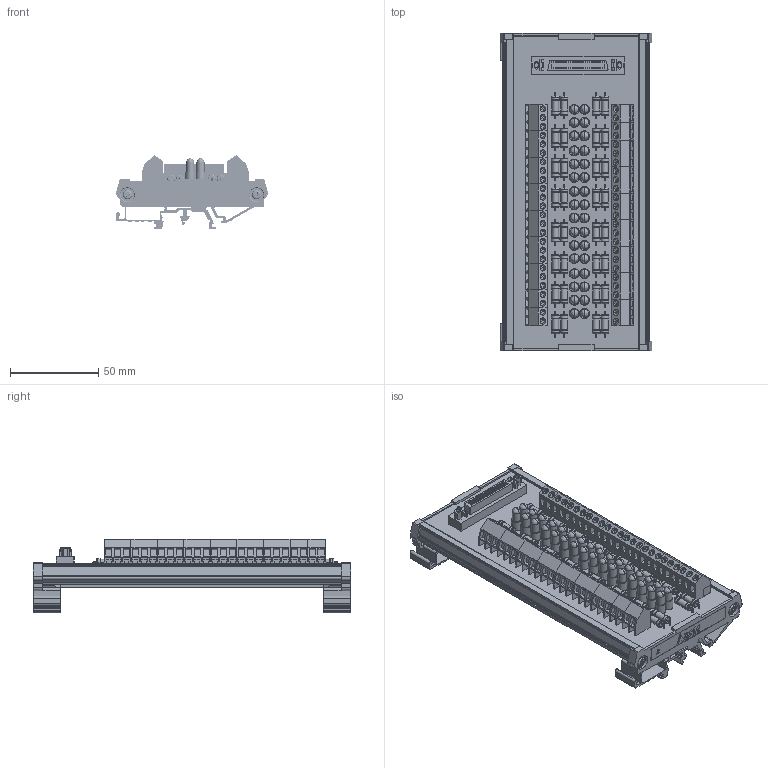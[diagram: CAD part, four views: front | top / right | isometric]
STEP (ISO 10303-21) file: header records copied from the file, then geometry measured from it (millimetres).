
FILE_DESCRIPTION (( 'STEP AP203' ), '1' );
FILE_NAME ('ADAM-3951-181030.STEP', '2018-10-30T02:55:13', ( '' ), ( '' ), 'SwSTEP 2.0', 'SolidWorks 2016', '' );
FILE_SCHEMA (( 'CONFIG_CONTROL_DESIGN' ));
Length unit declared in the file: millimetre
Products named in the file (143): 04-led-11_5; led-ass-1.1.1_3; IC-ASS; IC-ASS-11_4; IC-11.1_8; 04-led-11_6; IC-11.1_14; 01-LVDSkiva; 04-led-11.1_16; 01-CON-3-2-01; IC-ASS.1; led-ass-1.1_4; led-ass-1.1_2; 04-led-11_10; 04-led-11.1_15; 03-conn-3-01; ADAM-3951-181030; 04-led-11.1_7; 04-led-11.1_14; IC-11_3; led-ass-1_3; IC-11_9; IC-11.1; IC-ASS-11.1.1; IC-ASS-11.1_2; 03-conn-3-01.1; 03-conn-3-01.1.1.1.1.1_2; 4.2; 03-conn-3-01.1.1.1; 03-conn-3-01_2; 04-led-11.1_8; IC-ASS-11.1_4; led-ass-1_5; IC-11_13; 04-led-11_4; IC-11_7; led-ASS-33.1.1.1.1; 04-led-11.1_13; led-ass-1.1.1_5; IC-ASS-11.1.1_2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
Assembly tree (145 placements, depth 6):
  ADAM-3951-181030
    01-cov-11
      2
      4
      3
      screw-ass-11
        4.2  x4
    00-PCB-ASS.1
      IC-AS-3.1
        IC-ASS.1
          IC-ASS-11.1.1.1
            IC-11.1_16
            IC-11_16
          IC-ASS-11.1.1
            IC-11.1_15
            IC-11_15
          IC-ASS-11.1
            IC-11.1_14
            IC-11_14
          IC-ASS-11
            IC-11.1_13
            IC-11_13
        IC-ASS
          IC-ASS-11.1.1.1_2
            IC-11.1_12
            IC-11_12
          IC-ASS-11.1.1_2
            IC-11.1_11
            IC-11_11
          IC-ASS-11.1_2
            IC-11.1_10
            IC-11_10
          IC-ASS-11_2
            IC-11.1_9
            IC-11_9
      IC-AS-3
        IC-ASS.1_2
          IC-ASS-11.1.1.1_3
            IC-11.1_8
            IC-11_8
          IC-ASS-11.1.1_3
            IC-11.1_7
            IC-11_7
          IC-ASS-11.1_3
            IC-11.1_6
            IC-11_6
          IC-ASS-11_3
            IC-11.1_5
            IC-11_5
        IC-ASS_2
          IC-ASS-11.1.1.1_4
            IC-11.1_4
            IC-11_4
          IC-ASS-11.1.1_4
            IC-11.1_3
            IC-11_3
          IC-ASS-11.1_4
            IC-11.1_2
            IC-11_2
          IC-ASS-11_4
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Bounding box: 85.94 x 179.7 x 41.65 mm (x, y, z)
Volume: 123908.8 mm3; surface area: 135006 mm2
Topology: 96 solids, 96 shells, 4925 faces, 12921 edges, 8325 vertices
Faces by surface type: plane 2949, cylinder 1460, torus 272, sphere 128, bspline 116
Entity records: 172435 total; most frequent: CARTESIAN_POINT 38864, DIRECTION 24918, ORIENTED_EDGE 24514, EDGE_CURVE 12257, LINE 8324, VECTOR 8324, AXIS2_PLACEMENT_3D 8297, VERTEX_POINT 8019
